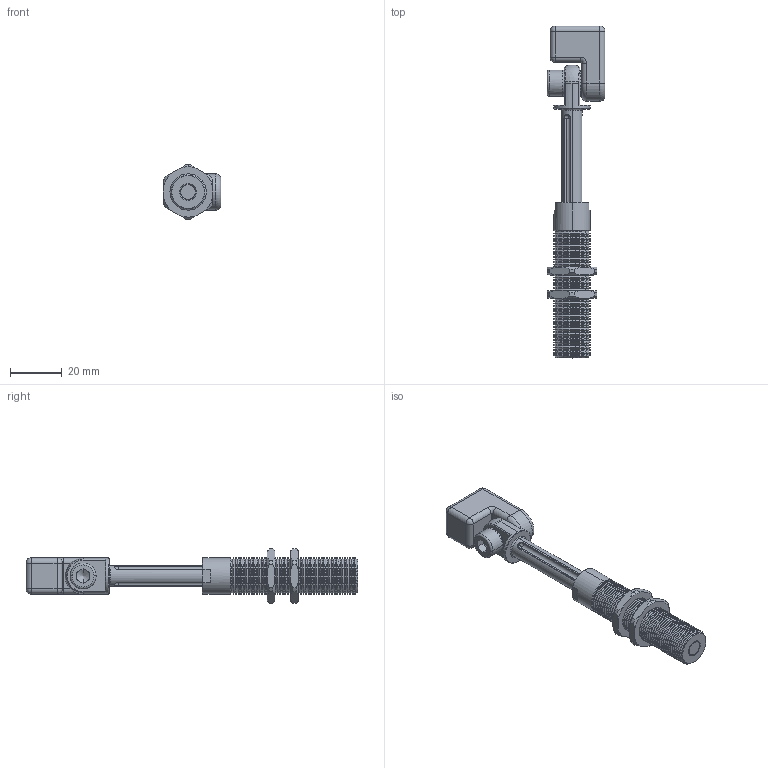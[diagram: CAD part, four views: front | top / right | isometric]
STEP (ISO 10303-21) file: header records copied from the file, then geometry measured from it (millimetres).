
FILE_DESCRIPTION (( 'STEP AP203' ), '1' );
FILE_NAME ('VFET1436-G18.STEP', '2024-07-26T03:49:49', ( '微软用户' ), ( '微软中国' ), 'SwSTEP 2.0', 'SolidWorks 2018', '' );
FILE_SCHEMA (( 'CONFIG_CONTROL_DESIGN' ));
Length unit declared in the file: millimetre
Products named in the file (1): VFET1436-G18
Bounding box: 22.3 x 128 x 21 mm (x, y, z)
Volume: 18494.6 mm3; surface area: 12131.3 mm2
Topology: 7 solids, 7 shells, 882 faces, 2618 edges, 1590 vertices
Faces by surface type: plane 402, cone 270, cylinder 178, sphere 17, torus 9, bspline 6
Entity records: 31965 total; most frequent: CARTESIAN_POINT 8063, ORIENTED_EDGE 5200, DIRECTION 5074, EDGE_CURVE 2600, AXIS2_PLACEMENT_3D 1962, VERTEX_POINT 1583, LINE 1150, VECTOR 1150
